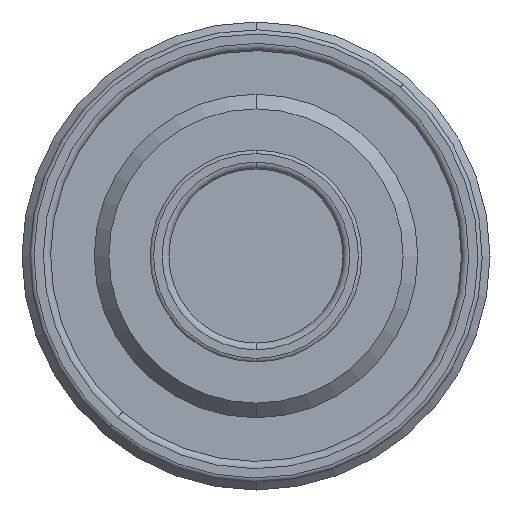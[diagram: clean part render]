
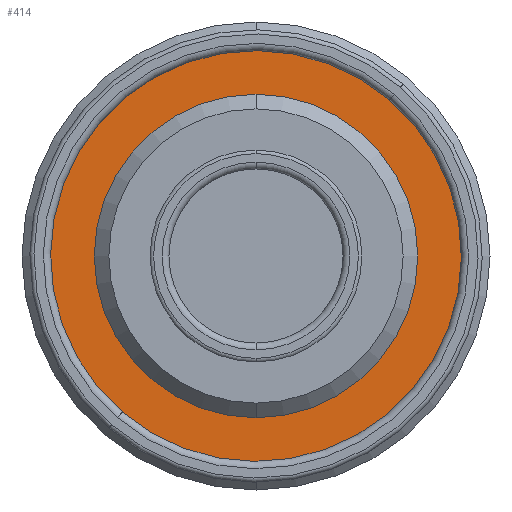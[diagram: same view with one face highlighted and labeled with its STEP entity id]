
A CAD part, front view. The second image highlights one B-rep face of the part: STEP entity #414.
In plain terms, the highlighted planar face has unit normal (0, -1, 0).
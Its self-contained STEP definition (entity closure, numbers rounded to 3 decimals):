
#184=PLANE('',#2591);
#221=FACE_BOUND('',#747,.T.);
#222=FACE_BOUND('',#748,.T.);
#414=ADVANCED_FACE('',(#221,#222),#184,.F.);
#747=EDGE_LOOP('',(#1324,#1325));
#748=EDGE_LOOP('',(#1326,#1327));
#1324=ORIENTED_EDGE('',*,*,#2062,.F.);
#1325=ORIENTED_EDGE('',*,*,#1993,.F.);
#1326=ORIENTED_EDGE('',*,*,#1989,.T.);
#1327=ORIENTED_EDGE('',*,*,#2063,.T.);
#1756=VERTEX_POINT('',#3819);
#1757=VERTEX_POINT('',#3821);
#1760=VERTEX_POINT('',#3828);
#1761=VERTEX_POINT('',#3830);
#1989=EDGE_CURVE('',#1757,#1756,#2272,.T.);
#1993=EDGE_CURVE('',#1760,#1761,#2275,.T.);
#2062=EDGE_CURVE('',#1761,#1760,#2321,.T.);
#2063=EDGE_CURVE('',#1756,#1757,#2322,.T.);
#2272=CIRCLE('',#2504,21.4);
#2275=CIRCLE('',#2508,15.55);
#2321=CIRCLE('',#2588,15.55);
#2322=CIRCLE('',#2590,21.4);
#2504=AXIS2_PLACEMENT_3D('',#3820,#2984,#2985);
#2508=AXIS2_PLACEMENT_3D('',#3829,#2993,#2994);
#2588=AXIS2_PLACEMENT_3D('',#4134,#3166,#3167);
#2590=AXIS2_PLACEMENT_3D('',#4136,#3170,#3171);
#2591=AXIS2_PLACEMENT_3D('',#4137,#3172,#3173);
#2984=DIRECTION('',(0.,-1.,0.));
#2985=DIRECTION('',(0.,0.,-1.));
#2993=DIRECTION('',(0.,-1.,0.));
#2994=DIRECTION('',(0.,0.,-1.));
#3166=DIRECTION('',(0.,-1.,0.));
#3167=DIRECTION('',(0.,0.,-1.));
#3170=DIRECTION('',(0.,-1.,0.));
#3171=DIRECTION('',(0.,0.,-1.));
#3172=DIRECTION('',(0.,1.,0.));
#3173=DIRECTION('',(0.,0.,-1.));
#3819=CARTESIAN_POINT('',(0.,-1.2,21.4));
#3820=CARTESIAN_POINT('',(0.,-1.2,0.));
#3821=CARTESIAN_POINT('',(0.,-1.2,-21.4));
#3828=CARTESIAN_POINT('',(0.,-1.2,-15.55));
#3829=CARTESIAN_POINT('',(0.,-1.2,0.));
#3830=CARTESIAN_POINT('',(0.,-1.2,15.55));
#4134=CARTESIAN_POINT('',(0.,-1.2,0.));
#4136=CARTESIAN_POINT('',(0.,-1.2,0.));
#4137=CARTESIAN_POINT('',(0.,-1.2,0.));
